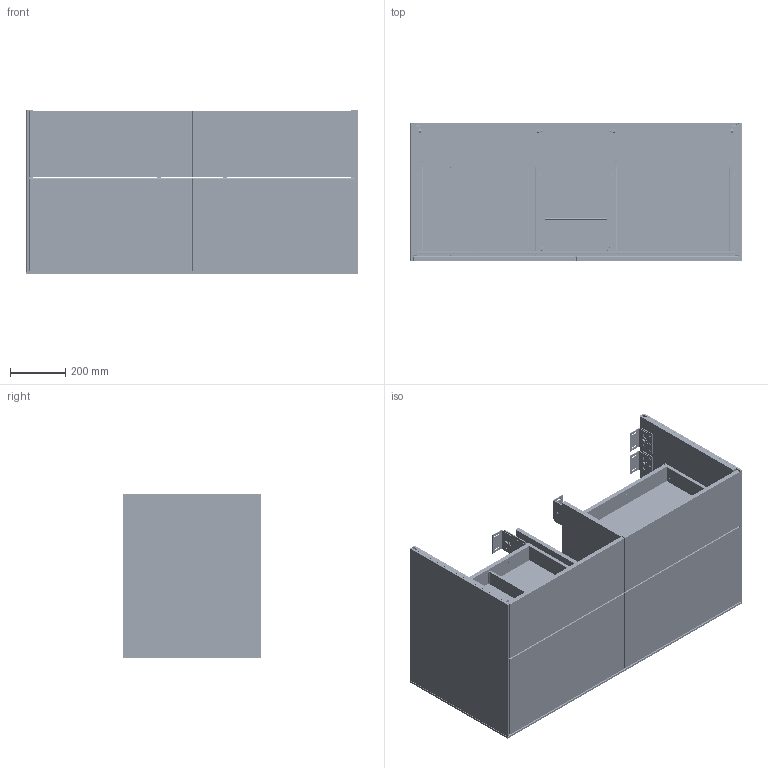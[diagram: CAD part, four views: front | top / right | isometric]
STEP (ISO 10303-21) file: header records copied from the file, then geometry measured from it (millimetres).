
FILE_DESCRIPTION((' '),'2;1');
FILE_NAME('M:\DWG\MÖBEL\3D-Zeichnungen Typen\Finion\STP\Finion_F05000XX_3D.stp','2016-09-19T16:19:35',(' '),(' '),' ','ACIS',' ');
FILE_SCHEMA(('CONFIG_CONTROL_DESIGN'));
Length unit declared in the file: millimetre
Products named in the file (166): M:\DWG\MÖBEL\3D-Zeichnungen Typen\Finion\STP\Finion_F05000XX_3D.stp; Körper1; Körper2; Körper3; Körper4; Körper5; Körper6; Körper7; Körper8; Körper9; Körper10; Körper11; Körper12; Körper13; Körper14; Körper15; Körper16; Körper17; Körper18; Körper19; Körper20; Körper21; Körper22; Körper23; Körper24; Körper25; Körper26; Körper27; Körper28; Körper29; Körper30; Körper31; Körper32; Körper33; Körper34; Körper35; Körper36; Körper37; Körper38; Körper39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
Assembly tree (165 placements, depth 2):
  M:\DWG\MÖBEL\3D-Zeichnungen Typen\Finion\STP\Finion_F05000XX_3D.stp
    Körper1
    Körper2
    Körper3
    Körper4
    Körper5
    Körper6
    Körper7
    Körper8
    Körper9
    Körper10
    Körper11
    Körper12
    Körper13
    Körper14
    Körper15
    Körper16
    Körper17
    Körper18
    Körper19
    Körper20
    Körper21
    Körper22
    Körper23
    Körper24
    Körper25
    Körper26
    Körper27
    Körper28
    Körper29
    Körper30
    Körper31
    Körper32
    Körper33
    Körper34
    Körper35
    Körper36
    Körper37
    Körper38
    Körper39
    Körper40
    Körper41
    Körper42
    Körper43
    Körper44
    Körper45
    Körper46
    Körper47
    Körper48
    Körper49
    Körper50
    Körper51
    Körper52
    Körper53
    Körper54
    Körper55
    Körper56
    Körper57
    Körper58
    Körper59
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Bounding box: 1196 x 498 x 591 mm (x, y, z)
Volume: 66094780.7 mm3; surface area: 12288051 mm2
Topology: 201 solids, 201 shells, 11957 faces, 31777 edges, 20889 vertices
Faces by surface type: bspline 5497, plane 3780, cylinder 2369, cone 243, torus 54, sphere 14
Full cylindrical faces by diameter (mm): 3 x25, 4 x2, 5 x2, 6 x9, 7 x3, 8 x24, 8.02 x24, 10 x15, 12 x1, 30 x3
Entity records: 490731 total; most frequent: CARTESIAN_POINT 181617, ORIENTED_EDGE 62694, DIRECTION 53306, EDGE_CURVE 31347, VECTOR 21174, LINE 21174, VERTEX_POINT 20797, AXIS2_PLACEMENT_3D 16066
